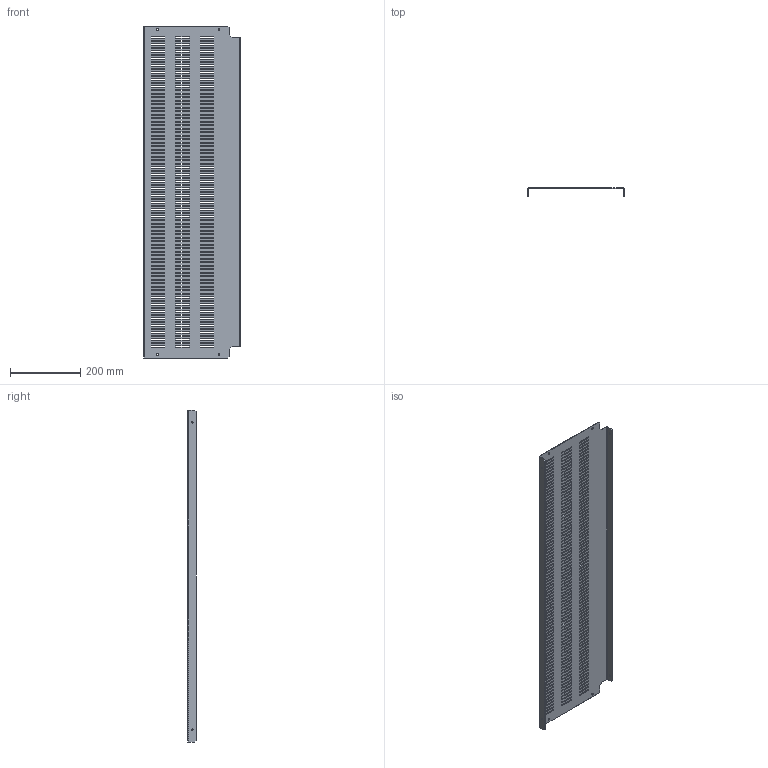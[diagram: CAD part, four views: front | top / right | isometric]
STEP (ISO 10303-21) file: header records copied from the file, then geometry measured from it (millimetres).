
FILE_DESCRIPTION(('CAx-IF Rec.Pracs.---Model Styling and Organization---1.2---2011-12-15','CAx-IF Rec.Pracs.---Geometric and Assembly Validation Properties---4.1---2014-06-16','CAx-IF Rec.Pracs.---PMI Polyline Presentation---2.0---2013-05-24'),'2;1');
FILE_NAME('R5SBA104.stp','2021-05-06T02:24:36+03:00',(''),(''),'STEP Interface 4.4 by CT CoreTechnologie','3D_Evolution4.4 by CT CoreTechnologie','');
FILE_SCHEMA(('AUTOMOTIVE_DESIGN { 1 0 10303 214 1 1 1 1 }'));
Length unit declared in the file: millimetre
Products named in the file (2): R5SBA104; RB.0541.00.00.1_-04
Assembly tree (1 placements, depth 2):
  R5SBA104
    RB.0541.00.00.1_-04
Bounding box: 274 x 23 x 945 mm (x, y, z)
Surface area: 556215.2 mm2 (no closed solid volume)
Topology: 0 solids, 1 shells, 1116 faces, 3330 edges, 2216 vertices
Faces by surface type: plane 1096, cylinder 20
Entity records: 37891 total; most frequent: CARTESIAN_POINT 6664, ORIENTED_EDGE 6660, DIRECTION 5606, EDGE_CURVE 3330, VECTOR 3290, LINE 3290, VERTEX_POINT 2216, EDGE_LOOP 1666
